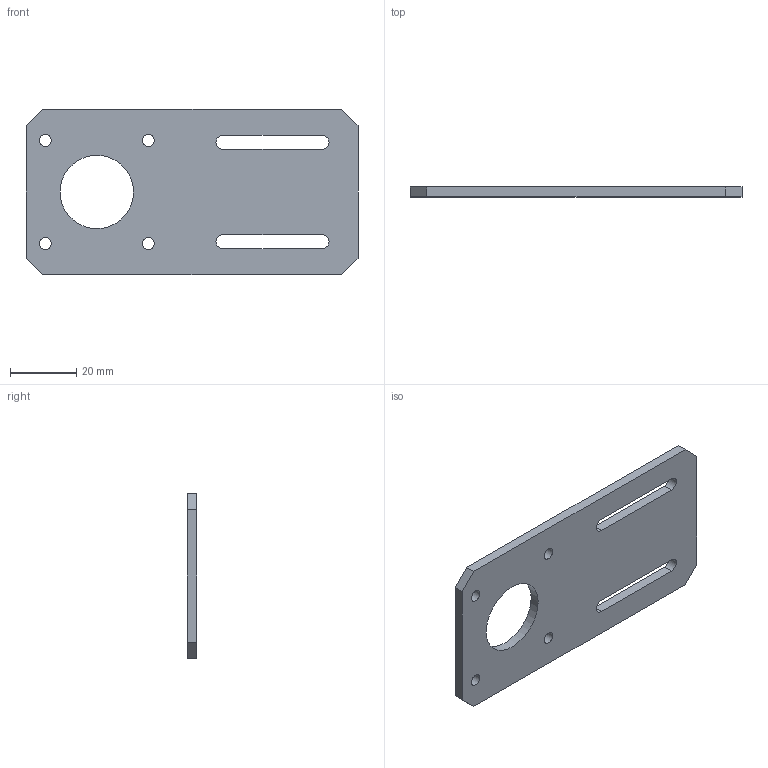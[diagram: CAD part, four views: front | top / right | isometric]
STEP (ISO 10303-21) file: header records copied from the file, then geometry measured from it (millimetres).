
FILE_DESCRIPTION(/* description */ (''),/* implementation_level */ '2;1');
FILE_NAME(/* name */ 'C:\Users\Lukas\Documents\Inventor\Rocketronics Teile\NEMA 17 gerade.stp',/* time_stamp */ '2026-03-17T17:08:08+01:00',/* author */ ('Lukas'),/* organization */ (''),/* preprocessor_version */ 'ST-DEVELOPER v19',/* originating_system */ 'Autodesk Inventor 2023',/* authorisation */ '');
FILE_SCHEMA (('AUTOMOTIVE_DESIGN { 1 0 10303 214 3 1 1 }'));
Length unit declared in the file: millimetre
Products named in the file (1): NEMA 17 gerade
Bounding box: 100.4 x 3 x 50 mm (x, y, z)
Volume: 12787.5 mm3; surface area: 10176.4 mm2
Topology: 1 solids, 1 shells, 23 faces, 63 edges, 42 vertices
Faces by surface type: plane 14, cylinder 9
Full cylindrical faces by diameter (mm): 3.6 x4, 22.2 x1
Entity records: 806 total; most frequent: DIRECTION 129, CARTESIAN_POINT 129, ORIENTED_EDGE 126, EDGE_CURVE 63, LINE 45, VECTOR 45, VERTEX_POINT 42, AXIS2_PLACEMENT_3D 42
